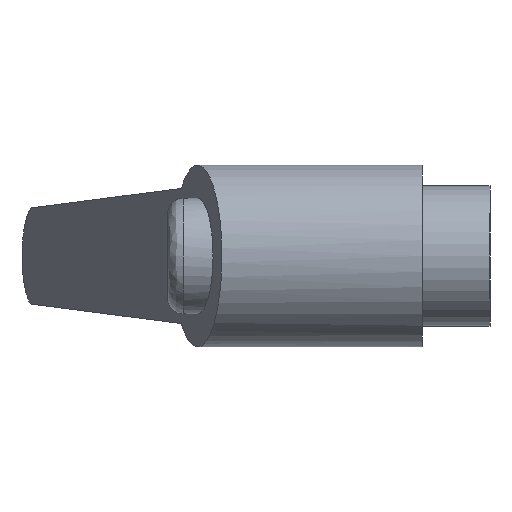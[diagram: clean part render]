
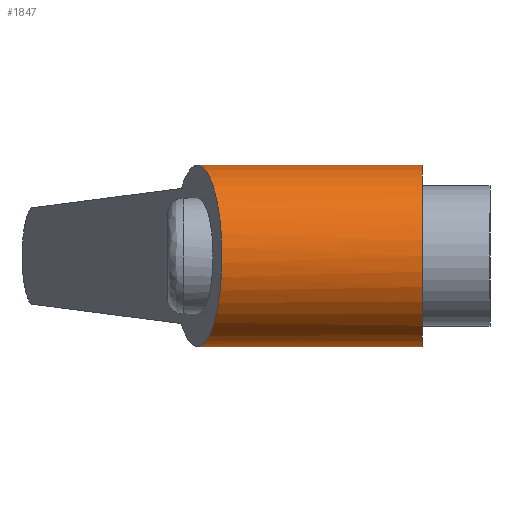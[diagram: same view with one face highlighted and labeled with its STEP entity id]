
A CAD part, left-side view. The second image highlights one B-rep face of the part: STEP entity #1847.
In plain terms, the highlighted cylindrical face has radius 8.75 mm (diameter 17.5 mm), a partial arc.
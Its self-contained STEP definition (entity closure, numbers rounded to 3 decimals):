
#4 = EDGE_CURVE ( 'NONE', #2582, #2206, #73, .T. ) ;
#5 = CARTESIAN_POINT ( 'NONE',  ( 0., 6.5, -8.75 ) ) ;
#23 = VERTEX_POINT ( 'NONE', #5 ) ;
#73 =( BOUNDED_CURVE ( )  B_SPLINE_CURVE ( 3, ( #1630, #602, #254, #856 ),
 .UNSPECIFIED., .F., .F. ) 
 B_SPLINE_CURVE_WITH_KNOTS ( ( 4, 4 ),
 ( 4.712, 7.854 ),
 .UNSPECIFIED. ) 
 CURVE ( )  GEOMETRIC_REPRESENTATION_ITEM ( )  RATIONAL_B_SPLINE_CURVE ( ( 1., 0.333, 0.333, 1. ) ) 
 REPRESENTATION_ITEM ( '' )  );
#97 = EDGE_CURVE ( 'NONE', #2582, #974, #198, .T. ) ;
#163 = CARTESIAN_POINT ( 'NONE',  ( 0., 6.5, 8.75 ) ) ;
#198 = LINE ( 'NONE', #1098, #1375 ) ;
#254 = CARTESIAN_POINT ( 'NONE',  ( -17.5, 23.43, -8.75 ) ) ;
#448 = AXIS2_PLACEMENT_3D ( 'NONE', #1220, #774, #2016 ) ;
#477 = DIRECTION ( 'NONE',  ( 0., -1., 0. ) ) ;
#602 = CARTESIAN_POINT ( 'NONE',  ( -17.5, 23.43, 8.75 ) ) ;
#645 = CIRCLE ( 'NONE', #448, 8.75 ) ;
#772 = CARTESIAN_POINT ( 'NONE',  ( 0., 28.119, -8.75 ) ) ;
#773 = ORIENTED_EDGE ( 'NONE', *, *, #4, .T. ) ;
#774 = DIRECTION ( 'NONE',  ( 0., 1., 0. ) ) ;
#856 = CARTESIAN_POINT ( 'NONE',  ( 0., 28.119, -8.75 ) ) ;
#913 = LINE ( 'NONE', #1322, #2563 ) ;
#944 = DIRECTION ( 'NONE',  ( 0., -1., 0. ) ) ;
#974 = VERTEX_POINT ( 'NONE', #163 ) ;
#1046 = ORIENTED_EDGE ( 'NONE', *, *, #97, .F. ) ;
#1098 = CARTESIAN_POINT ( 'NONE',  ( 0., 0., 8.75 ) ) ;
#1119 = EDGE_CURVE ( 'NONE', #23, #974, #645, .T. ) ;
#1132 = EDGE_LOOP ( 'NONE', ( #1046, #773, #2081, #2052 ) ) ;
#1220 = CARTESIAN_POINT ( 'NONE',  ( 0., 6.5, 0. ) ) ;
#1322 = CARTESIAN_POINT ( 'NONE',  ( 0., 0., -8.75 ) ) ;
#1375 = VECTOR ( 'NONE', #2131, 1000. ) ;
#1630 = CARTESIAN_POINT ( 'NONE',  ( 0., 28.119, 8.75 ) ) ;
#1657 = FACE_OUTER_BOUND ( 'NONE', #1132, .T. ) ;
#1723 = AXIS2_PLACEMENT_3D ( 'NONE', #2488, #477, #1884 ) ;
#1847 = ADVANCED_FACE ( 'NONE', ( #1657 ), #2214, .T. ) ;
#1884 = DIRECTION ( 'NONE',  ( 0., 0., -1. ) ) ;
#1926 = EDGE_CURVE ( 'NONE', #2206, #23, #913, .T. ) ;
#2016 = DIRECTION ( 'NONE',  ( 0., 0., -1. ) ) ;
#2052 = ORIENTED_EDGE ( 'NONE', *, *, #1119, .T. ) ;
#2063 = CARTESIAN_POINT ( 'NONE',  ( 0., 28.119, 8.75 ) ) ;
#2081 = ORIENTED_EDGE ( 'NONE', *, *, #1926, .T. ) ;
#2131 = DIRECTION ( 'NONE',  ( 0., -1., 0. ) ) ;
#2206 = VERTEX_POINT ( 'NONE', #772 ) ;
#2214 = CYLINDRICAL_SURFACE ( 'NONE', #1723, 8.75 ) ;
#2488 = CARTESIAN_POINT ( 'NONE',  ( 0., 0., 0. ) ) ;
#2563 = VECTOR ( 'NONE', #944, 1000. ) ;
#2582 = VERTEX_POINT ( 'NONE', #2063 ) ;
